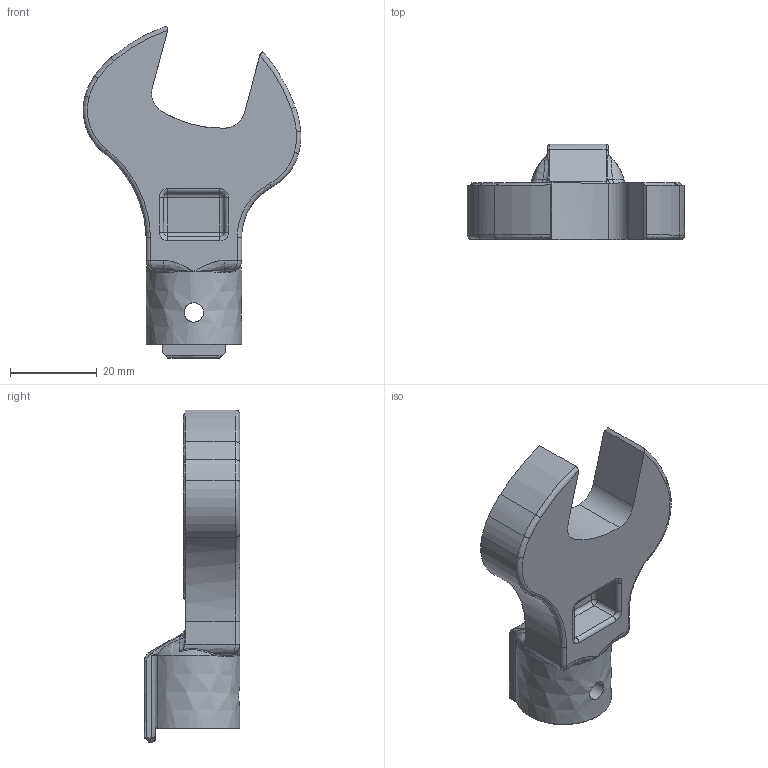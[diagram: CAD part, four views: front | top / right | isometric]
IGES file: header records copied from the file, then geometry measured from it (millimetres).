
Global section: file name: SH15DX22; native system: Autodesk Inventor 2016; preprocessor: unknown; author: Q600; date: 20151029.184243; units: millimetre
Bounding box: 50.17 x 22 x 76.51 mm (x, y, z)
Volume: 21968.2 mm3; surface area: 8332.8 mm2
Topology: 1 solids, 1 shells, 135 faces, 351 edges, 212 vertices
Faces by surface type: bspline 135
